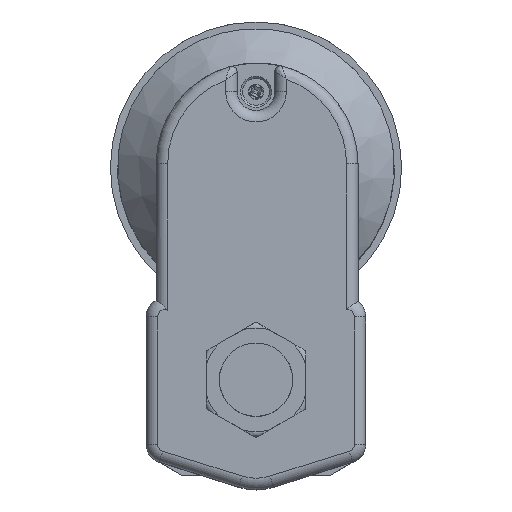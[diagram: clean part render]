
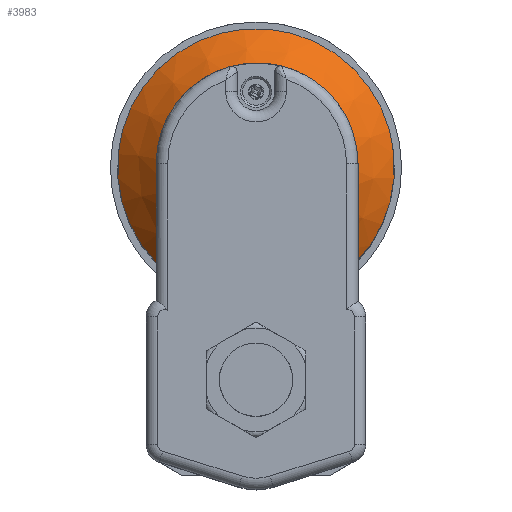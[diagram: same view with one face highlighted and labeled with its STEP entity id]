
A CAD part, top view. The second image highlights one B-rep face of the part: STEP entity #3983.
In plain terms, the highlighted conical face has half-angle 45 degrees and reference radius 48 mm.
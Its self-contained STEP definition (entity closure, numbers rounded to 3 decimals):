
#1261 = EDGE_CURVE ( 'NONE', #6281, #6266, #1931, .T. ) ;
#1262 = EDGE_CURVE ( 'NONE', #9485, #9485, #1933, .T. ) ;
#1931 = CIRCLE ( 'NONE', #3490, 48. ) ;
#1933 = CIRCLE ( 'NONE', #3487, 34. ) ;
#2493 = AXIS2_PLACEMENT_3D ( 'NONE', #7405, #7406, #7394 ) ;
#3051 = ORIENTED_EDGE ( 'NONE', *, *, #1262, .F. ) ;
#3052 = ORIENTED_EDGE ( 'NONE', *, *, #1261, .T. ) ;
#3053 = ORIENTED_EDGE ( 'NONE', *, *, #3376, .T. ) ;
#3376 = EDGE_CURVE ( 'NONE', #6266, #6281, #4553, .T. ) ;
#3487 = AXIS2_PLACEMENT_3D ( 'NONE', #5353, #5355, #5356 ) ;
#3490 = AXIS2_PLACEMENT_3D ( 'NONE', #5350, #5351, #5352 ) ;
#3983 = ADVANCED_FACE ( 'NONE', ( #8185, #8182 ), #8183, .T. ) ;
#4275 = EDGE_LOOP ( 'NONE', ( #3051 ) ) ;
#4354 = EDGE_LOOP ( 'NONE', ( #3052, #3053 ) ) ;
#4553 = B_SPLINE_CURVE_WITH_KNOTS ( 'NONE', 3,
 ( #7244, #7255, #7260, #7261, #7262, #7263, #7264, #7265, #7266, #7267, #7268, #7269, #7270, #7271, #7272, #7273, #7274, #7275, #7276, #7277, #7278, #7279, #7280, #7281, #7282, #7283 ),
 .UNSPECIFIED., .F., .F.,
 ( 4, 2, 2, 2, 2, 2, 2, 2, 2, 2, 2, 2, 4 ),
 ( 0., 0.004, 0.007, 0.015, 0.018, 0.022, 0.026, 0.029, 0.037, 0.04, 0.044, 0.051, 0.059 ),
 .UNSPECIFIED. ) ;
#5350 = CARTESIAN_POINT ( 'NONE',  ( 0., 73.9, 53.5 ) ) ;
#5351 = DIRECTION ( 'NONE',  ( 0., 0., 1. ) ) ;
#5352 = DIRECTION ( 'NONE',  ( 0., -1., 0. ) ) ;
#5353 = CARTESIAN_POINT ( 'NONE',  ( 0., 73.9, 67.5 ) ) ;
#5355 = DIRECTION ( 'NONE',  ( 0., 0., 1. ) ) ;
#5356 = DIRECTION ( 'NONE',  ( 0., -1., 0. ) ) ;
#6266 = VERTEX_POINT ( 'NONE', #9268 ) ;
#6281 = VERTEX_POINT ( 'NONE', #9283 ) ;
#7244 = CARTESIAN_POINT ( 'NONE',  ( -27.908, 34.847, 53.5 ) ) ;
#7255 = CARTESIAN_POINT ( 'NONE',  ( -26.826, 34.768, 54.065 ) ) ;
#7260 = CARTESIAN_POINT ( 'NONE',  ( -25.733, 34.688, 54.609 ) ) ;
#7261 = CARTESIAN_POINT ( 'NONE',  ( -23.531, 34.53, 55.644 ) ) ;
#7262 = CARTESIAN_POINT ( 'NONE',  ( -22.421, 34.452, 56.137 ) ) ;
#7263 = CARTESIAN_POINT ( 'NONE',  ( -19.06, 34.223, 57.53 ) ) ;
#7264 = CARTESIAN_POINT ( 'NONE',  ( -16.779, 34.077, 58.344 ) ) ;
#7265 = CARTESIAN_POINT ( 'NONE',  ( -13.28, 33.887, 59.356 ) ) ;
#7266 = CARTESIAN_POINT ( 'NONE',  ( -12.101, 33.829, 59.657 ) ) ;
#7267 = CARTESIAN_POINT ( 'NONE',  ( -9.715, 33.725, 60.183 ) ) ;
#7268 = CARTESIAN_POINT ( 'NONE',  ( -8.505, 33.679, 60.407 ) ) ;
#7269 = CARTESIAN_POINT ( 'NONE',  ( -6.081, 33.605, 60.767 ) ) ;
#7270 = CARTESIAN_POINT ( 'NONE',  ( -4.863, 33.577, 60.903 ) ) ;
#7271 = CARTESIAN_POINT ( 'NONE',  ( -2.415, 33.538, 61.085 ) ) ;
#7272 = CARTESIAN_POINT ( 'NONE',  ( -1.188, 33.529, 61.13 ) ) ;
#7273 = CARTESIAN_POINT ( 'NONE',  ( 2.477, 33.529, 61.127 ) ) ;
#7274 = CARTESIAN_POINT ( 'NONE',  ( 4.908, 33.569, 60.942 ) ) ;
#7275 = CARTESIAN_POINT ( 'NONE',  ( 8.537, 33.68, 60.402 ) ) ;
#7276 = CARTESIAN_POINT ( 'NONE',  ( 9.746, 33.726, 60.177 ) ) ;
#7277 = CARTESIAN_POINT ( 'NONE',  ( 12.13, 33.83, 59.65 ) ) ;
#7278 = CARTESIAN_POINT ( 'NONE',  ( 13.307, 33.888, 59.348 ) ) ;
#7279 = CARTESIAN_POINT ( 'NONE',  ( 16.801, 34.078, 58.337 ) ) ;
#7280 = CARTESIAN_POINT ( 'NONE',  ( 19.078, 34.224, 57.523 ) ) ;
#7281 = CARTESIAN_POINT ( 'NONE',  ( 23.55, 34.529, 55.668 ) ) ;
#7282 = CARTESIAN_POINT ( 'NONE',  ( 25.745, 34.688, 54.629 ) ) ;
#7283 = CARTESIAN_POINT ( 'NONE',  ( 27.908, 34.847, 53.5 ) ) ;
#7394 = DIRECTION ( 'NONE',  ( 0., 1., 0. ) ) ;
#7405 = CARTESIAN_POINT ( 'NONE',  ( 0., 73.9, 53.5 ) ) ;
#7406 = DIRECTION ( 'NONE',  ( 0., 0., -1. ) ) ;
#8182 = FACE_OUTER_BOUND ( 'NONE', #4354, .T. ) ;
#8183 = CONICAL_SURFACE ( 'NONE', #2493, 48., 0.785 ) ;
#8185 = FACE_BOUND ( 'NONE', #4275, .T. ) ;
#9268 = CARTESIAN_POINT ( 'NONE',  ( -27.908, 34.847, 53.5 ) ) ;
#9283 = CARTESIAN_POINT ( 'NONE',  ( 27.908, 34.847, 53.5 ) ) ;
#9485 = VERTEX_POINT ( 'NONE', #9486 ) ;
#9486 = CARTESIAN_POINT ( 'NONE',  ( 0., 39.9, 67.5 ) ) ;
